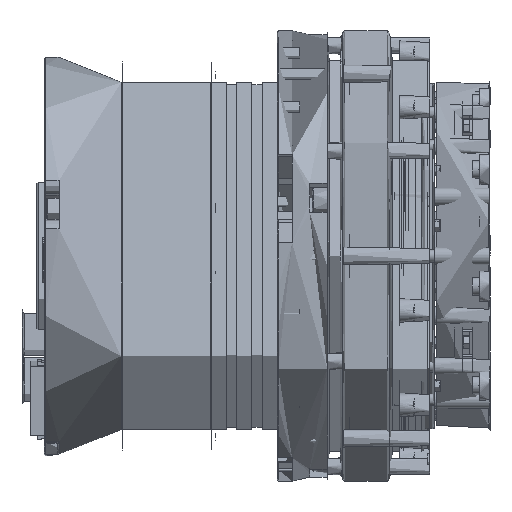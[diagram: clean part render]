
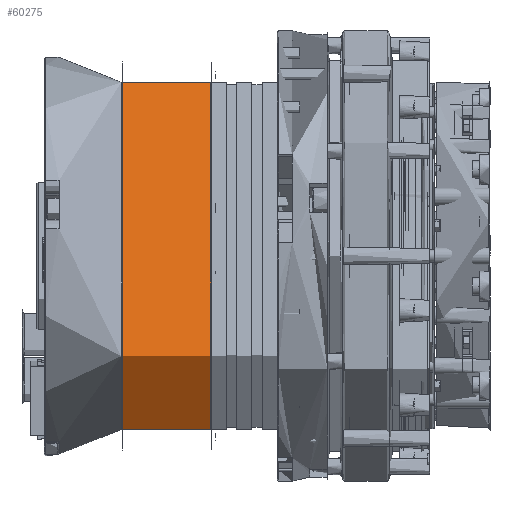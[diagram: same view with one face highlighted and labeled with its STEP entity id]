
A CAD part, front view. The second image highlights one B-rep face of the part: STEP entity #60275.
In plain terms, the highlighted cylindrical face has radius 40 mm (diameter 80 mm), a full revolution.
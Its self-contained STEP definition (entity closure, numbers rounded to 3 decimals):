
#60236=CARTESIAN_POINT('',(-59.3,-34.641,-20.));
#60237=VERTEX_POINT('',#60236);
#60238=CARTESIAN_POINT('',(-59.3,0.,0.));
#60239=DIRECTION('',(0.,-0.866,-0.5));
#60240=DIRECTION('',(-1.,0.,0.));
#60241=AXIS2_PLACEMENT_3D('',#60238,#60240,#60239);
#60242=CIRCLE('',#60241,40.);
#60243=EDGE_CURVE('',#60237,#60237,#60242,.T.);
#60251=CARTESIAN_POINT('',(-59.3,0.,0.));
#60252=DIRECTION('',(0.,-0.866,-0.5));
#60253=DIRECTION('',(1.,0.,0.));
#60254=AXIS2_PLACEMENT_3D('',#60251,#60253,#60252);
#60255=CYLINDRICAL_SURFACE('',#60254,40.);
#60256=CARTESIAN_POINT('',(-41.7,-34.641,-20.));
#60257=VERTEX_POINT('',#60256);
#60258=CARTESIAN_POINT('',(-59.3,-34.641,-20.));
#60259=DIRECTION('',(1.,0.,0.));
#60260=VECTOR('',#60259,17.6);
#60261=LINE('',#60258,#60260);
#60262=EDGE_CURVE('',#60237,#60257,#60261,.T.);
#60263=ORIENTED_EDGE('',*,*,#60262,.T.);
#60264=CARTESIAN_POINT('',(-41.7,0.,0.));
#60265=DIRECTION('',(0.,-0.866,-0.5));
#60266=DIRECTION('',(-1.,0.,0.));
#60267=AXIS2_PLACEMENT_3D('',#60264,#60266,#60265);
#60268=CIRCLE('',#60267,40.);
#60269=EDGE_CURVE('',#60257,#60257,#60268,.T.);
#60270=ORIENTED_EDGE('',*,*,#60269,.T.);
#60271=ORIENTED_EDGE('',*,*,#60262,.F.);
#60272=ORIENTED_EDGE('',*,*,#60243,.F.);
#60273=EDGE_LOOP('',(#60263,#60270,#60271,#60272));
#60274=FACE_OUTER_BOUND('',#60273,.T.);
#60275=ADVANCED_FACE('',(#60274),#60255,.T.);
